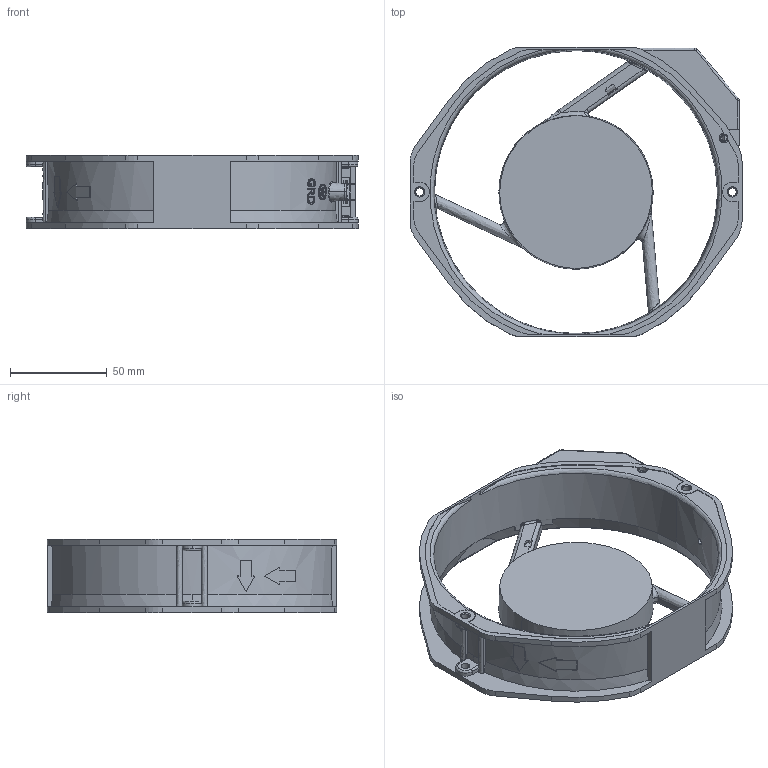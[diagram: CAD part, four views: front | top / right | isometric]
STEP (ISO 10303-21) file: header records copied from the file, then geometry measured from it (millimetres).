
FILE_DESCRIPTION(/* description */ (''),/* implementation_level */ '2;1');
FILE_NAME(/* name */ 'C17B_F~1',/* time_stamp */ '2019-05-07T15:50:18+02:00',/* author */ (''),/* organization */ (''),/* preprocessor_version */ 'ST-DEVELOPER v14',/* originating_system */ '',/* authorisation */ '');
FILE_SCHEMA (('AUTOMOTIVE_DESIGN'));
Length unit declared in the file: millimetre
Products named in the file (1): Document
Bounding box: 172 x 150 x 38 mm (x, y, z)
Surface area: 73610.4 mm2 (no closed solid volume)
Topology: 0 solids, 2 shells, 695 faces, 2075 edges, 1336 vertices
Faces by surface type: bspline 352, plane 343
Entity records: 42804 total; most frequent: CARTESIAN_POINT 30339, ORIENTED_EDGE 4060, EDGE_CURVE 2073, B_SPLINE_CURVE_WITH_KNOTS 1673, VERTEX_POINT 1336, EDGE_LOOP 732, ADVANCED_FACE 695, FACE_OUTER_BOUND 695
